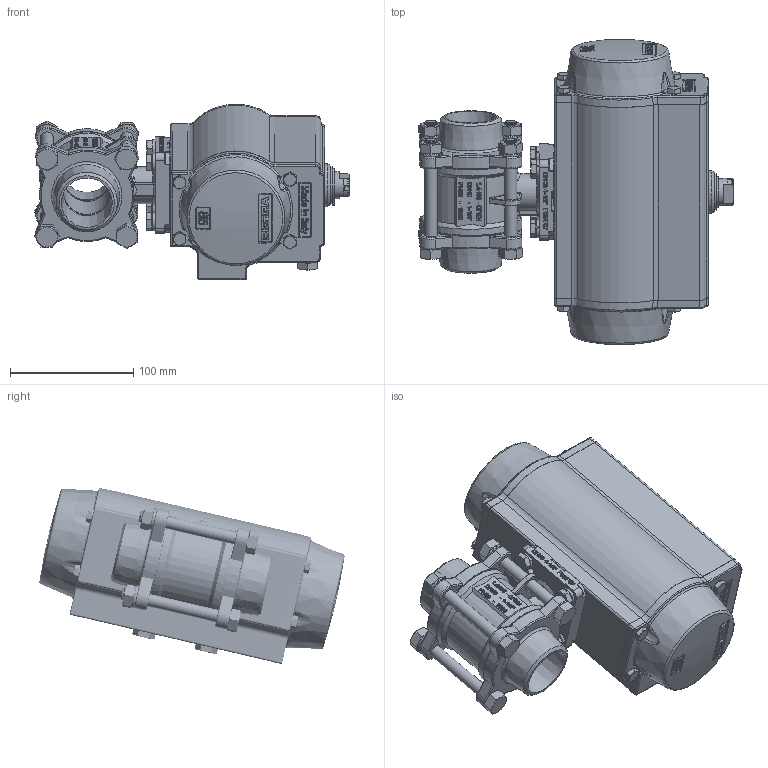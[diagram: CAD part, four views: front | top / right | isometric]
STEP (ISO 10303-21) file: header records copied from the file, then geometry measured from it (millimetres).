
FILE_DESCRIPTION((''),'2;1');
FILE_NAME('M:\3D-Files nach Lieferanten\TA-Produkte\angetriebene Armaturen\Register 8\RB_791x\7914 040 SR085.stp','2021-12-21T13:51:32',('RL'),(''),'Autodesk Inventor 2012','Autodesk Inventor 2012','');
FILE_SCHEMA(('AUTOMOTIVE_DESIGN { 1 0 10303 214 1 1 1 1 }'));
Length unit declared in the file: millimetre
Products named in the file (1): 7914_040_82SR085
Bounding box: 255.2 x 247.82 x 142.57 mm (x, y, z)
Volume: 2629839.6 mm3; surface area: 250242.7 mm2
Topology: 2 solids, 14 shells, 2753 faces, 7284 edges, 4697 vertices
Faces by surface type: plane 1224, bspline 659, cylinder 415, cone 300, torus 140, sphere 15
Full cylindrical faces by diameter (mm): 2 x2, 3 x1, 4.2 x8, 4.9 x10, 5 x5, 6 x2, 7 x4, 8 x4, 8.5 x2, 9 x4, 10 x62, 10.7 x4, 10.8 x8, 11 x1, 11.63 x3, 13.9 x2, 16 x2, 17.8 x6, 18.1 x4, 18.2 x2, 18.3 x1, 18.5 x1, 18.8 x2, 21.5 x1, 22 x2, 23.8 x1, 24 x4, 30 x1, 35 x1, 36.3 x2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
Entity records: 230868 total; most frequent: CARTESIAN_POINT 169739, ORIENTED_EDGE 13526, DIRECTION 10457, EDGE_CURVE 6763, VERTEX_POINT 4529, AXIS2_PLACEMENT_3D 3784, EDGE_LOOP 3203, VECTOR 2889
